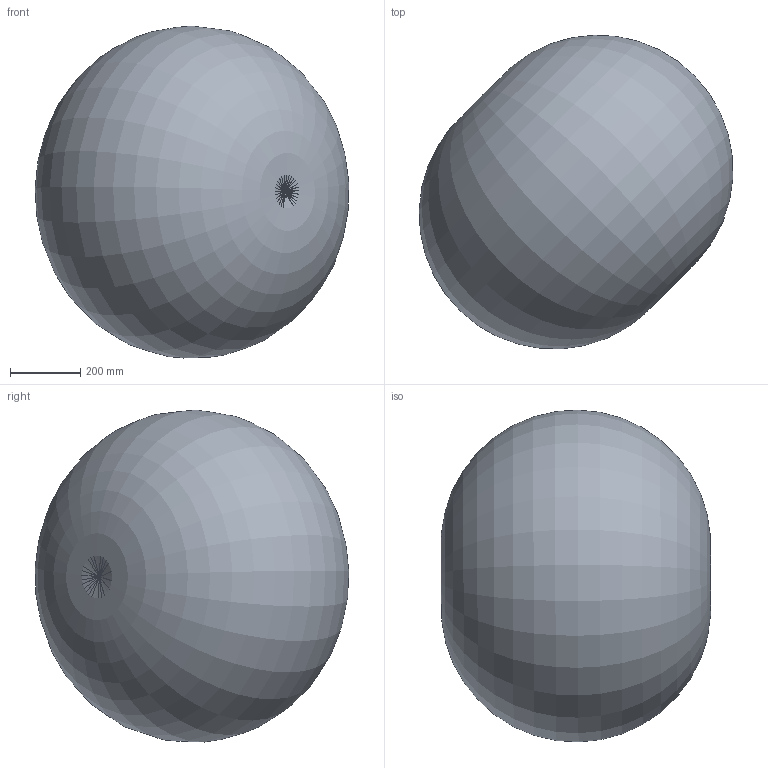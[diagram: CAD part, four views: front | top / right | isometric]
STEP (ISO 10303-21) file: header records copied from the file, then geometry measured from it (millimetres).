
FILE_DESCRIPTION(/* description */ ('Alibre Inc.'),/* implementation_level */ '2;1');
FILE_NAME(/* name */ 'export0',/* time_stamp */ '2016-05-13T10:30:18-04:00',/* author */ (''),/* organization */ (''),/* preprocessor_version */ 'ST-DEVELOPER v14',/* originating_system */ 'Alibre',/* authorisation */ '');
FILE_SCHEMA (('CONFIG_CONTROL_DESIGN'));
Length unit declared in the file: inch
Products named in the file (6): ID_1; ID_2; ID_3; ID_4
Bounding box: 891.51 x 891.48 x 943.65 mm (x, y, z)
Volume: 262296630.3 mm3; surface area: 4466334.7 mm2
Topology: 5 solids, 5 shells, 788 faces, 2152 edges, 1370 vertices
Faces by surface type: bspline 234, cylinder 180, revolution 161, plane 161, cone 27, torus 15, sphere 10
Full cylindrical faces by diameter (mm): 12.47 x1, 14.717 x1, 88.22 x1, 91.82 x1, 99.57 x1, 103.05 x1, 108.96 x1, 110.49 x1, 118.66 x1, 120.46 x1, 169 x1, 185.81 x5, 208.34 x1
Entity records: 50832 total; most frequent: CARTESIAN_POINT 32938, ORIENTED_EDGE 4038, DIRECTION 2699, EDGE_CURVE 2019, VERTEX_POINT 1304, AXIS2_PLACEMENT_3D 981, FACE_BOUND 871, EDGE_LOOP 870
